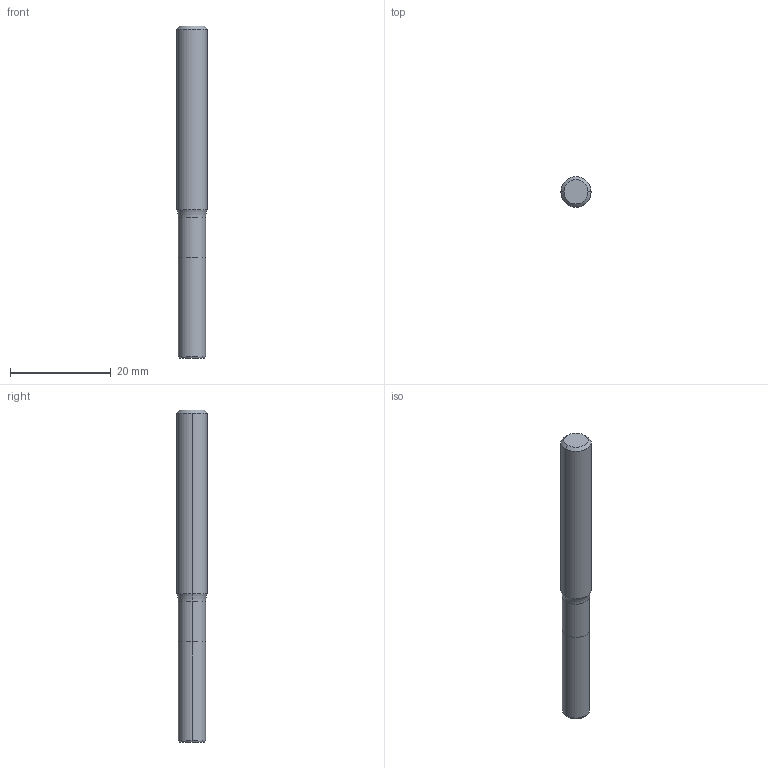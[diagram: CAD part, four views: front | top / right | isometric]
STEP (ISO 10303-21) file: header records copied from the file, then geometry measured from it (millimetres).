
FILE_DESCRIPTION (( 'STEP AP214' ), '1' );
FILE_NAME ('817.054.00_3D-model.step', '2022-02-23T23:18:30', ( '' ), ( '' ), 'SwSTEP 2.0', 'SolidWorks 2020', '' );
FILE_SCHEMA (( 'AUTOMOTIVE_DESIGN' ));
Length unit declared in the file: millimetre
Products named in the file (3): 817.054.00_3D-model; CUT-3D^Baugr50; NOCUT-3D^Baugr50
Assembly tree (2 placements, depth 2):
  817.054.00_3D-model
    CUT-3D^Baugr50
    NOCUT-3D^Baugr50
Bounding box: 6 x 6 x 66 mm (x, y, z)
Volume: 1706.6 mm3; surface area: 1278 mm2
Topology: 2 solids, 2 shells, 16 faces, 28 edges, 16 vertices
Faces by surface type: cylinder 6, cone 4, plane 4, torus 2
Entity records: 508 total; most frequent: DIRECTION 94, CARTESIAN_POINT 68, ORIENTED_EDGE 56, AXIS2_PLACEMENT_3D 42, EDGE_CURVE 28, CIRCLE 18, EDGE_LOOP 16, FACE_OUTER_BOUND 16
